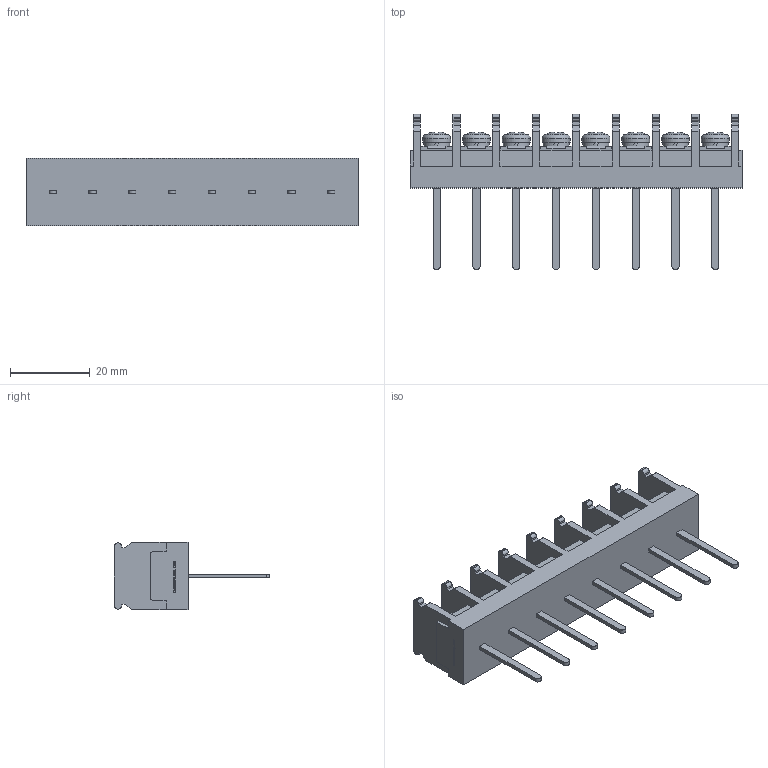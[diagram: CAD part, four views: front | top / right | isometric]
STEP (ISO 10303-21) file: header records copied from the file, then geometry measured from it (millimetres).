
FILE_DESCRIPTION(/* description */ ('Alibre Inc.'),/* implementation_level */ '2;1');
FILE_NAME(/* name */ 'export0',/* time_stamp */ '2015-10-17T17:24:12+09:00',/* author */ (''),/* organization */ (''),/* preprocessor_version */ 'ST-DEVELOPER v14',/* originating_system */ 'Alibre',/* authorisation */ '');
FILE_SCHEMA (('CONFIG_CONTROL_DESIGN'));
Length unit declared in the file: centimetre
Products named in the file (1): ID_1
Bounding box: 83.4 x 39 x 17 mm (x, y, z)
Volume: 16173 mm3; surface area: 10089.7 mm2
Topology: 1 solids, 17 shells, 944 faces, 2574 edges, 1708 vertices
Faces by surface type: plane 700, bspline 104, cylinder 84, cone 32, torus 16, sphere 8
Full cylindrical faces by diameter (mm): 4 x8, 6.5 x8, 7 x8
Entity records: 28871 total; most frequent: CARTESIAN_POINT 6335, ORIENTED_EDGE 5036, DIRECTION 3632, EDGE_CURVE 2518, VECTOR 1838, LINE 1838, VERTEX_POINT 1684, AXIS2_PLACEMENT_3D 1245
